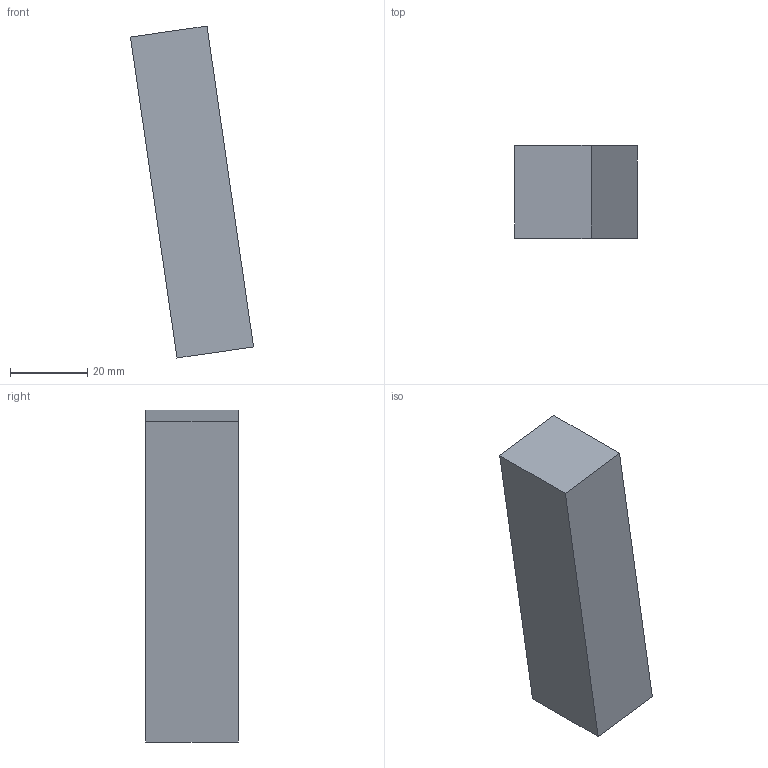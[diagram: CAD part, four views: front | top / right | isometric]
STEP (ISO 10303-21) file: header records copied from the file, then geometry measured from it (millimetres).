
FILE_DESCRIPTION(('Open CASCADE Model'),'2;1');
FILE_NAME('Open CASCADE Shape Model','2026-09-19T23:46:41',('Author'),( 'Open CASCADE'),'Open CASCADE STEP processor 7.9','Open CASCADE 7.9' ,'Unknown');
FILE_SCHEMA(('AUTOMOTIVE_DESIGN { 1 0 10303 214 1 1 1 1 }'));
Length unit declared in the file: millimetre
Products named in the file (1): Open CASCADE STEP translator 7.9 95
Bounding box: 31.79 x 24 x 85.86 mm (x, y, z)
Volume: 40254.2 mm3; surface area: 8339.9 mm2
Topology: 1 solids, 1 shells, 6 faces, 12 edges, 8 vertices
Faces by surface type: plane 6
Entity records: 322 total; most frequent: CARTESIAN_POINT 51, DIRECTION 50, LINE 36, VECTOR 36, ORIENTED_EDGE 24, PCURVE 24, DEFINITIONAL_REPRESENTATION 24, EDGE_CURVE 12
